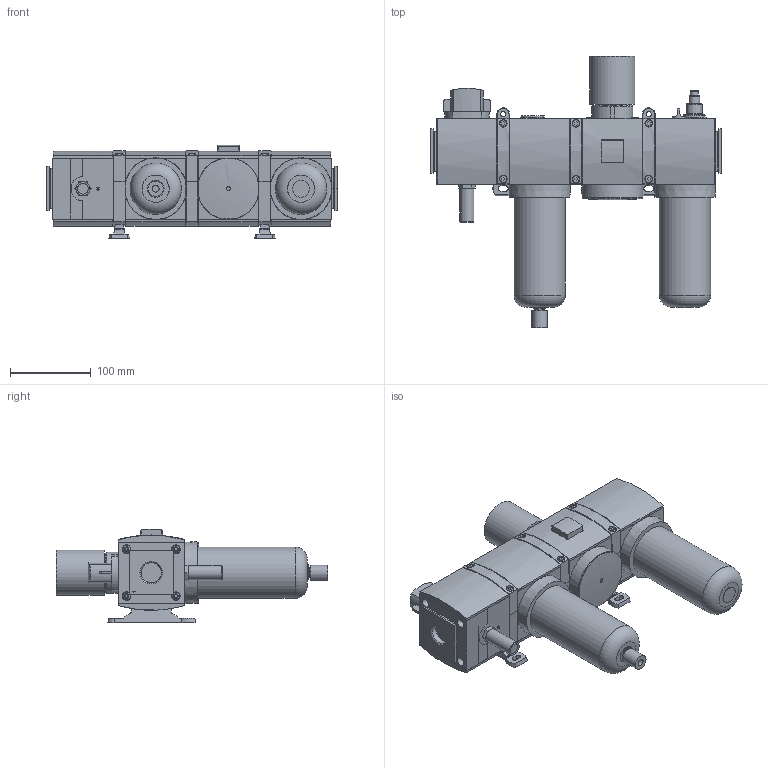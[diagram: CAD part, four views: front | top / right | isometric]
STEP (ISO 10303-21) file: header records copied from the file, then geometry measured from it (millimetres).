
FILE_DESCRIPTION( ( 'STEP AP214' ), '1' );
FILE_NAME( 'p:/temp/worker_224/temp/exporttempdir_3172_691_7II10/format_0/07142020-200231_gen_9082.stp', '2020-02-07T19:14:33', ( '' ), ( '' ), ' ', 'PARTsolutions', ' ' );
FILE_SCHEMA( ( 'AUTOMOTIVE_DESIGN { 1 0 10303 214 1 1 1 1 }' ) );
Length unit declared in the file: millimetre
Products named in the file (19): 07142020-200231_gen_9082; _440562-004-005-F(L); _439489-001-0; _437742 KNOB-100_653; _653-M3MN; _440561-004-005-F(L); _G653ASLA0B00A00_LS; _439498-011-F(L); _439851-002; _507439-006-P; _653-440512-002; _G653ASLA0A00A00_LS; _439488-011-F(L); _439489-002-H; _653-438047-009; _503493-001; _510722-001-STANDARD_653; _503402-001; _500180-014-F(L)
Assembly tree (26 placements, depth 2):
  07142020-200231_gen_9082
    _440562-004-005-F(L)
    _439489-001-0  x7
    _437742 KNOB-100_653
    _653-M3MN
    _440561-004-005-F(L)
    _G653ASLA0B00A00_LS  x2
    _439498-011-F(L)
    _439851-002
    _507439-006-P  x2
    _653-440512-002
    _G653ASLA0A00A00_LS
    _439488-011-F(L)
    _439489-002-H
    _653-438047-009
    _503493-001
    _510722-001-STANDARD_653
    _503402-001
    _500180-014-F(L)
Bounding box: 360 x 335.95 x 115.36 mm (x, y, z)
Volume: 3855217.7 mm3; surface area: 513816.4 mm2
Topology: 26 solids, 27 shells, 1367 faces, 3327 edges, 2135 vertices
Faces by surface type: plane 956, cylinder 263, cone 105, torus 37, sphere 5, bspline 1
Full cylindrical faces by diameter (mm): 1.7 x2, 2.8 x2, 3 x2, 5.85 x4, 6.3 x4, 6.5 x2, 8.5 x6, 8.6 x1, 9.652 x1, 10 x5, 10.4 x1, 10.8 x4, 12 x4, 12.309 x1, 12.985 x1, 13 x2, 15.1 x1, 15.875 x1, 16.105 x1, 17.3 x1, 19 x1, 19.4 x1, 21.6 x1, 22.7 x1, 27 x1, 29.5 x1, 30 x2, 33.5 x2, 43 x1, 51 x1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
Entity records: 45223 total; most frequent: CARTESIAN_POINT 6868, DIRECTION 5903, ORIENTED_EDGE 5546, EDGE_CURVE 2773, AXIS2_PLACEMENT_3D 1979, LINE 1945, VECTOR 1945, VERTEX_POINT 1867
